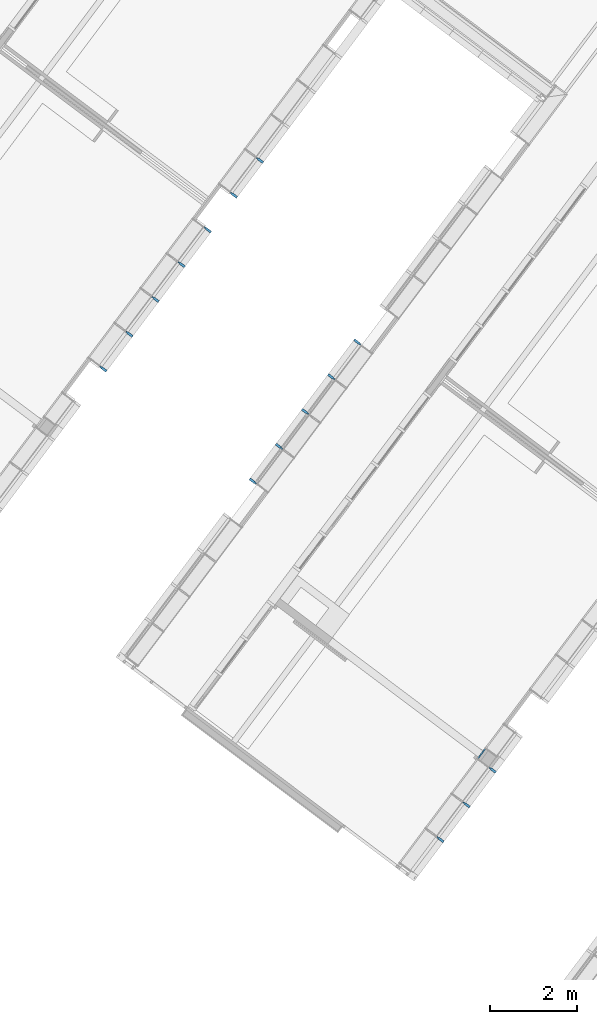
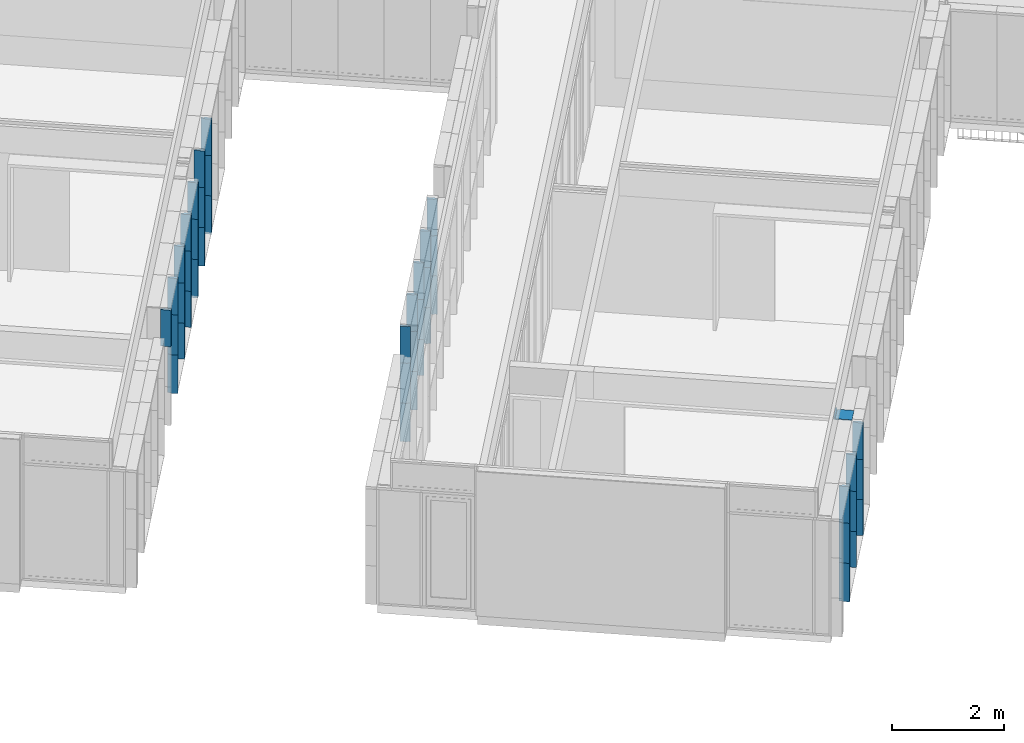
# One storey, part 94 of 243: 44 members, 4 elements without a shape of their own.
"""IFC2X3 building model written with IfcOpenShell, lengths in metres."""

from ifc_helpers import new_model, entity, si_unit, converted_unit, derived_unit, direction, frame, origin, place, context, subcontext, project, spatial, polyline, outline, extrude, source, transform, mapped, material, type_object, type_shapes, element, aggregate, save


model = new_model("IFC2X3")

# Units and contexts
model_context = context("Model", 3, precision=1e-05, world=origin(), true_north=direction((6.123031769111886e-17, 1.0)))
body_context = subcontext(model_context, "Body", "Model", "MODEL_VIEW")
ifc_project = project(units=[si_unit("LENGTHUNIT", "METRE"), si_unit("AREAUNIT", "SQUARE_METRE"), si_unit("VOLUMEUNIT", "CUBIC_METRE"), converted_unit("PLANEANGLEUNIT", "DEGREE", entity("IfcRatioMeasure", 0.017453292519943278), si_unit("PLANEANGLEUNIT", "RADIAN"), dimensions=[0, 0, 0, 0, 0, 0, 0]), si_unit("MASSUNIT", "GRAM", prefix="KILO"), derived_unit("MASSDENSITYUNIT", [(si_unit("MASSUNIT", "GRAM", prefix="KILO"), 1), (si_unit("LENGTHUNIT", "METRE"), -3)]), derived_unit("IONCONCENTRATIONUNIT", [(si_unit("MASSUNIT", "GRAM", prefix="KILO"), 1), (si_unit("LENGTHUNIT", "METRE"), -3)]), derived_unit("MOMENTOFINERTIAUNIT", [(si_unit("LENGTHUNIT", "METRE"), 4)]), si_unit("TIMEUNIT", "SECOND"), si_unit("FREQUENCYUNIT", "HERTZ"), si_unit("THERMODYNAMICTEMPERATUREUNIT", "DEGREE_CELSIUS"), derived_unit("THERMALTRANSMITTANCEUNIT", [(si_unit("MASSUNIT", "GRAM", prefix="KILO"), 1), (si_unit("THERMODYNAMICTEMPERATUREUNIT", "KELVIN"), -1), (si_unit("TIMEUNIT", "SECOND"), -3)]), derived_unit("THERMALCONDUCTANCEUNIT", [(si_unit("MASSUNIT", "GRAM", prefix="KILO"), 1), (si_unit("THERMODYNAMICTEMPERATUREUNIT", "KELVIN"), -1), (si_unit("TIMEUNIT", "SECOND"), -3), (si_unit("LENGTHUNIT", "METRE"), 1)]), derived_unit("VOLUMETRICFLOWRATEUNIT", [(si_unit("LENGTHUNIT", "METRE"), 3), (si_unit("TIMEUNIT", "SECOND"), -1)]), derived_unit("MASSFLOWRATEUNIT", [(si_unit("MASSUNIT", "GRAM", prefix="KILO"), 1), (si_unit("TIMEUNIT", "SECOND"), -1)]), derived_unit("ROTATIONALFREQUENCYUNIT", [(si_unit("TIMEUNIT", "SECOND"), -1)]), si_unit("ELECTRICCURRENTUNIT", "AMPERE"), si_unit("ELECTRICVOLTAGEUNIT", "VOLT"), si_unit("POWERUNIT", "WATT"), si_unit("FORCEUNIT", "NEWTON", prefix="KILO"), si_unit("ILLUMINANCEUNIT", "LUX"), si_unit("LUMINOUSFLUXUNIT", "LUMEN"), si_unit("LUMINOUSINTENSITYUNIT", "CANDELA"), derived_unit("USERDEFINED", [(si_unit("MASSUNIT", "GRAM", prefix="KILO"), -1), (si_unit("LENGTHUNIT", "METRE"), -2), (si_unit("TIMEUNIT", "SECOND"), 3), (si_unit("LUMINOUSFLUXUNIT", "LUMEN"), 1)]), derived_unit("USERDEFINED", [(si_unit("MASSUNIT", "GRAM", prefix="KILO"), 1), (si_unit("TIMEUNIT", "SECOND"), -3), (si_unit("LENGTHUNIT", "METRE"), 3), (si_unit("ELECTRICCURRENTUNIT", "AMPERE"), -2)]), derived_unit("SOUNDPOWERUNIT", [(si_unit("MASSUNIT", "GRAM", prefix="KILO"), 1), (si_unit("TIMEUNIT", "SECOND"), -3), (si_unit("LENGTHUNIT", "METRE"), 2)]), derived_unit("SOUNDPRESSUREUNIT", [(si_unit("MASSUNIT", "GRAM", prefix="KILO"), 1), (si_unit("LENGTHUNIT", "METRE"), -1), (si_unit("TIMEUNIT", "SECOND"), -2)]), derived_unit("LINEARVELOCITYUNIT", [(si_unit("LENGTHUNIT", "METRE"), 1), (si_unit("TIMEUNIT", "SECOND"), -1)]), si_unit("PRESSUREUNIT", "PASCAL"), derived_unit("USERDEFINED", [(si_unit("MASSUNIT", "GRAM", prefix="KILO"), 1), (si_unit("LENGTHUNIT", "METRE"), -2), (si_unit("TIMEUNIT", "SECOND"), -2)]), derived_unit("LINEARFORCEUNIT", [(si_unit("MASSUNIT", "GRAM", prefix="KILO"), 1), (si_unit("TIMEUNIT", "SECOND"), -2)]), derived_unit("PLANARFORCEUNIT", [(si_unit("MASSUNIT", "GRAM", prefix="KILO"), 1), (si_unit("LENGTHUNIT", "METRE"), -1), (si_unit("TIMEUNIT", "SECOND"), -2)]), derived_unit("SPECIFICHEATCAPACITYUNIT", [(si_unit("THERMODYNAMICTEMPERATUREUNIT", "KELVIN"), -1), (si_unit("LENGTHUNIT", "METRE"), 2), (si_unit("TIMEUNIT", "SECOND"), -2)]), derived_unit("HEATINGVALUEUNIT", [(si_unit("LENGTHUNIT", "METRE"), 2), (si_unit("TIMEUNIT", "SECOND"), -2)]), derived_unit("VAPORPERMEABILITYUNIT", [(si_unit("LENGTHUNIT", "METRE"), -1), (si_unit("TIMEUNIT", "SECOND"), 1)]), derived_unit("DYNAMICVISCOSITYUNIT", [(si_unit("MASSUNIT", "GRAM", prefix="KILO"), 1), (si_unit("TIMEUNIT", "SECOND"), -1), (si_unit("LENGTHUNIT", "METRE"), -1)]), derived_unit("THERMALEXPANSIONCOEFFICIENTUNIT", [(si_unit("THERMODYNAMICTEMPERATUREUNIT", "KELVIN"), -1)]), derived_unit("MODULUSOFELASTICITYUNIT", [(si_unit("MASSUNIT", "GRAM", prefix="KILO"), 1), (si_unit("LENGTHUNIT", "METRE"), -1), (si_unit("TIMEUNIT", "SECOND"), -2)]), derived_unit("ISOTHERMALMOISTURECAPACITYUNIT", [(si_unit("LENGTHUNIT", "METRE"), 3), (si_unit("MASSUNIT", "GRAM", prefix="KILO"), -1)]), derived_unit("MOISTUREDIFFUSIVITYUNIT", [(si_unit("TIMEUNIT", "SECOND"), -1), (si_unit("LENGTHUNIT", "METRE"), 2)])], contexts=[model_context])

# Site, building, storey
site_placement = place(None, frame((0.0, 0.0, 235.0), z_axis=(0.0, 0.0, 1.0), x_axis=(-0.7996477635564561, 0.6004693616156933, 0.0)))
site = spatial("IfcSite", under=ifc_project, at=site_placement, Name="Default", CompositionType="ELEMENT")
building_placement = place(site_placement, origin())
building = spatial("IfcBuilding", under=site, at=building_placement, CompositionType="ELEMENT")
storey_placement = place(building_placement, origin())
storey = spatial("IfcBuildingStorey", under=building, at=storey_placement, Name="P0- Escola", CompositionType="ELEMENT", Elevation=0.0)

# Curtain wall, member
curtain_wall_type_1 = type_object("IfcCurtainWallType", Name="Muro cortina:MC- EXT- MC2", PredefinedType="NOTDEFINED")
curtain_wall_1_placement = place(storey_placement, origin())
curtain_wall_1 = element("IfcCurtainWall", 1, at=curtain_wall_1_placement, inside=storey, type_object=curtain_wall_type_1, Name="Muro cortina:MC- EXT- MC2", ObjectType="Muro cortina:MC- EXT- MC2")
ifc_material_1 = material(Name="_Alumini- T1- Perfil")
member_type_1 = type_object("IfcMemberType", Name="Montante rectangular:MC- Alu- 140x52,5 cm- Fa patis- Centre", PredefinedType="MULLION", material=ifc_material_1)
shared_shape_1 = source(origin(), body_context, "Body", "SweptSolid", [
    extrude(outline(polyline([(-0.11699999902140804, -0.026250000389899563), (0.021999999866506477, -0.026250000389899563), (0.021999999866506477, -0.01500000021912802), (0.07299999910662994, -0.01500000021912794), (0.07299999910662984, 0.015000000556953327), (0.02200000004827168, 0.015000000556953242), (0.02200000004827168, 0.026250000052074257), (-0.11699999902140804, 0.026250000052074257), (-0.11699999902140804, -0.026250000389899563)])), frame((0.0, 0.022999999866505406, -0.8400000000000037), z_axis=(0.0, 0.0, 1.0), x_axis=(0.0, -1.0, 0.0)), (0.0, 0.0, 1.0), 0.8400000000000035),
])
type_shapes(member_type_1, [shared_shape_1])
member_1_placement = place(curtain_wall_1_placement, frame((53.74514768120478, -21.415191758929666, -0.02), z_axis=(0.0, 0.0, -1.0), x_axis=(0.0, -1.0, 0.0)))
member_1 = element("IfcMember", 2, at=member_1_placement, type_object=member_type_1, material=ifc_material_1, Name="Montante rectangular:MC- Alu- 140x52,5 cm- Fa patis- Centre", ObjectType="Montante rectangular:MC- Alu- 140x52,5 cm- Fa patis- Centre", context=body_context, shape_type="MappedRepresentation", body=[
    mapped(shared_shape_1, transform((0.0, 0.0, 0.0), scale=1.0)),
])

# Curtain wall, members
curtain_wall_2_placement = place(storey_placement, origin())
curtain_wall_2 = element("IfcCurtainWall", 3, at=curtain_wall_2_placement, inside=storey, type_object=curtain_wall_type_1, Name="Muro cortina:MC- EXT- MC2", ObjectType="Muro cortina:MC- EXT- MC2")
member_2_placement = place(curtain_wall_2_placement, frame((66.44514768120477, -26.415191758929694, -0.02), z_axis=(0.0, 0.0, -1.0), x_axis=(0.0, -1.0, 0.0)))
member_2 = element("IfcMember", 4, at=member_2_placement, type_object=member_type_1, material=ifc_material_1, Name="Montante rectangular:MC- Alu- 140x52,5 cm- Fa patis- Centre", ObjectType="Montante rectangular:MC- Alu- 140x52,5 cm- Fa patis- Centre", context=body_context, shape_type="MappedRepresentation", body=[
    mapped(shared_shape_1, transform((0.0, 0.0, 0.0), scale=1.0)),
])
member_3_placement = place(curtain_wall_2_placement, frame((66.44514768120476, -29.415191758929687, -0.02), z_axis=(0.0, 0.0, -1.0), x_axis=(0.0, -1.0, 0.0)))
member_3 = element("IfcMember", 5, at=member_3_placement, type_object=member_type_1, material=ifc_material_1, Name="Montante rectangular:MC- Alu- 140x52,5 cm- Fa patis- Centre", ObjectType="Montante rectangular:MC- Alu- 140x52,5 cm- Fa patis- Centre", context=body_context, shape_type="MappedRepresentation", body=[
    mapped(shared_shape_1, transform((0.0, 0.0, 0.0), scale=1.0)),
])
member_4_placement = place(curtain_wall_2_placement, frame((66.44514768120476, -31.41519175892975, -0.02), z_axis=(0.0, 0.0, -1.0), x_axis=(0.0, -1.0, 0.0)))
member_4 = element("IfcMember", 6, at=member_4_placement, type_object=member_type_1, material=ifc_material_1, Name="Montante rectangular:MC- Alu- 140x52,5 cm- Fa patis- Centre", ObjectType="Montante rectangular:MC- Alu- 140x52,5 cm- Fa patis- Centre", context=body_context, shape_type="MappedRepresentation", body=[
    mapped(shared_shape_1, transform((0.0, 0.0, 0.0), scale=1.0)),
])
member_5_placement = place(curtain_wall_2_placement, frame((66.44514768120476, -30.41519175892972, -0.02), z_axis=(0.0, 0.0, -1.0), x_axis=(0.0, -1.0, 0.0)))
member_5 = element("IfcMember", 7, at=member_5_placement, type_object=member_type_1, material=ifc_material_1, Name="Montante rectangular:MC- Alu- 140x52,5 cm- Fa patis- Centre", ObjectType="Montante rectangular:MC- Alu- 140x52,5 cm- Fa patis- Centre", context=body_context, shape_type="MappedRepresentation", body=[
    mapped(shared_shape_1, transform((0.0, 0.0, 0.0), scale=1.0)),
])

# Member
member_type_2 = type_object("IfcMemberType", Name="Montante rectangular:MC- Alu- 140x52,5 cm- Fa patis- Centre", PredefinedType="MULLION", material=ifc_material_1)
shared_shape_2 = source(origin(), body_context, "Body", "SweptSolid", [
    extrude(outline(polyline([(-0.11699999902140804, -0.026250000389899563), (0.021999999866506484, -0.026250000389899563), (0.021999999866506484, -0.01500000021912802), (0.07299999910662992, -0.01500000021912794), (0.07299999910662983, 0.015000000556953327), (0.022000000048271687, 0.015000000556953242), (0.022000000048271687, 0.026250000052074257), (-0.11699999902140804, 0.026250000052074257), (-0.11699999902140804, -0.026250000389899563)])), frame((0.0, 0.022999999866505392, -0.7850000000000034), z_axis=(0.0, 0.0, 1.0), x_axis=(0.0, -1.0, 0.0)), (0.0, 0.0, 1.0), 0.7850000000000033),
])
type_shapes(member_type_2, [shared_shape_2])
member_6_placement = place(curtain_wall_1_placement, frame((53.74514768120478, -22.415191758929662, 0.035000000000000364), z_axis=(0.0, 0.0, -1.0), x_axis=(0.0, -1.0, 0.0)))
member_6 = element("IfcMember", 8, at=member_6_placement, type_object=member_type_2, material=ifc_material_1, Name="Montante rectangular:MC- Alu- 140x52,5 cm- Fa patis- Centre", ObjectType="Montante rectangular:MC- Alu- 140x52,5 cm- Fa patis- Centre", context=body_context, shape_type="MappedRepresentation", body=[
    mapped(shared_shape_2, transform((0.0, 0.0, 0.0), scale=1.0)),
])

member_7_placement = place(curtain_wall_1_placement, frame((53.74514768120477, -23.41519175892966, 0.035000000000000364), z_axis=(0.0, 0.0, -1.0), x_axis=(0.0, -1.0, 0.0)))
member_7 = element("IfcMember", 9, at=member_7_placement, type_object=member_type_2, material=ifc_material_1, Name="Montante rectangular:MC- Alu- 140x52,5 cm- Fa patis- Centre", ObjectType="Montante rectangular:MC- Alu- 140x52,5 cm- Fa patis- Centre", context=body_context, shape_type="MappedRepresentation", body=[
    mapped(shared_shape_2, transform((0.0, 0.0, 0.0), scale=1.0)),
])

member_8_placement = place(curtain_wall_2_placement, frame((66.44514768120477, -27.41519175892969, 0.035000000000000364), z_axis=(0.0, 0.0, -1.0), x_axis=(0.0, -1.0, 0.0)))
member_8 = element("IfcMember", 10, at=member_8_placement, type_object=member_type_2, material=ifc_material_1, Name="Montante rectangular:MC- Alu- 140x52,5 cm- Fa patis- Centre", ObjectType="Montante rectangular:MC- Alu- 140x52,5 cm- Fa patis- Centre", context=body_context, shape_type="MappedRepresentation", body=[
    mapped(shared_shape_2, transform((0.0, 0.0, 0.0), scale=1.0)),
])

member_9_placement = place(curtain_wall_2_placement, frame((66.44514768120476, -28.415191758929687, 0.035000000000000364), z_axis=(0.0, 0.0, -1.0), x_axis=(0.0, -1.0, 0.0)))
member_9 = element("IfcMember", 11, at=member_9_placement, type_object=member_type_2, material=ifc_material_1, Name="Montante rectangular:MC- Alu- 140x52,5 cm- Fa patis- Centre", ObjectType="Montante rectangular:MC- Alu- 140x52,5 cm- Fa patis- Centre", context=body_context, shape_type="MappedRepresentation", body=[
    mapped(shared_shape_2, transform((0.0, 0.0, 0.0), scale=1.0)),
])

member_type_3 = type_object("IfcMemberType", Name="Montante rectangular:MC- Alu- 140x52,5 cm- Fa patis- Centre", PredefinedType="MULLION", material=ifc_material_1)
shared_shape_3 = source(origin(), body_context, "Body", "SweptSolid", [
    extrude(outline(polyline([(-0.11699999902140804, -0.026250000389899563), (0.021999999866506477, -0.026250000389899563), (0.021999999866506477, -0.01500000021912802), (0.07299999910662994, -0.01500000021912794), (0.07299999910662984, 0.015000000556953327), (0.02200000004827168, 0.015000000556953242), (0.02200000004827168, 0.026250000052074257), (-0.11699999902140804, 0.026250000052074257), (-0.11699999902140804, -0.026250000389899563)])), frame((0.0, 0.022999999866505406, -0.8750000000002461), z_axis=(0.0, 0.0, 1.0), x_axis=(0.0, -1.0, 0.0)), (0.0, 0.0, 1.0), 0.8750000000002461),
])
type_shapes(member_type_3, [shared_shape_3])
member_10_placement = place(curtain_wall_1_placement, frame((53.74514768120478, -21.415191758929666, 0.8200000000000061), z_axis=(0.0, 0.0, -1.0), x_axis=(0.0, -1.0, 0.0)))
member_10 = element("IfcMember", 12, at=member_10_placement, type_object=member_type_3, material=ifc_material_1, Name="Montante rectangular:MC- Alu- 140x52,5 cm- Fa patis- Centre", ObjectType="Montante rectangular:MC- Alu- 140x52,5 cm- Fa patis- Centre", context=body_context, shape_type="MappedRepresentation", body=[
    mapped(shared_shape_3, transform((0.0, 0.0, 0.0), scale=1.0)),
])

member_11_placement = place(curtain_wall_1_placement, frame((53.74514768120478, -22.415191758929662, 0.8200000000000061), z_axis=(0.0, 0.0, -1.0), x_axis=(0.0, -1.0, 0.0)))
member_11 = element("IfcMember", 13, at=member_11_placement, type_object=member_type_3, material=ifc_material_1, Name="Montante rectangular:MC- Alu- 140x52,5 cm- Fa patis- Centre", ObjectType="Montante rectangular:MC- Alu- 140x52,5 cm- Fa patis- Centre", context=body_context, shape_type="MappedRepresentation", body=[
    mapped(shared_shape_3, transform((0.0, 0.0, 0.0), scale=1.0)),
])

member_12_placement = place(curtain_wall_1_placement, frame((53.74514768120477, -23.41519175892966, 0.8200000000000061), z_axis=(0.0, 0.0, -1.0), x_axis=(0.0, -1.0, 0.0)))
member_12 = element("IfcMember", 14, at=member_12_placement, type_object=member_type_3, material=ifc_material_1, Name="Montante rectangular:MC- Alu- 140x52,5 cm- Fa patis- Centre", ObjectType="Montante rectangular:MC- Alu- 140x52,5 cm- Fa patis- Centre", context=body_context, shape_type="MappedRepresentation", body=[
    mapped(shared_shape_3, transform((0.0, 0.0, 0.0), scale=1.0)),
])

member_13_placement = place(curtain_wall_2_placement, frame((66.44514768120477, -26.415191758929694, 0.8200000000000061), z_axis=(0.0, 0.0, -1.0), x_axis=(0.0, -1.0, 0.0)))
member_13 = element("IfcMember", 15, at=member_13_placement, type_object=member_type_3, material=ifc_material_1, Name="Montante rectangular:MC- Alu- 140x52,5 cm- Fa patis- Centre", ObjectType="Montante rectangular:MC- Alu- 140x52,5 cm- Fa patis- Centre", context=body_context, shape_type="MappedRepresentation", body=[
    mapped(shared_shape_3, transform((0.0, 0.0, 0.0), scale=1.0)),
])

member_14_placement = place(curtain_wall_2_placement, frame((66.44514768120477, -27.41519175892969, 0.8200000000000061), z_axis=(0.0, 0.0, -1.0), x_axis=(0.0, -1.0, 0.0)))
member_14 = element("IfcMember", 16, at=member_14_placement, type_object=member_type_3, material=ifc_material_1, Name="Montante rectangular:MC- Alu- 140x52,5 cm- Fa patis- Centre", ObjectType="Montante rectangular:MC- Alu- 140x52,5 cm- Fa patis- Centre", context=body_context, shape_type="MappedRepresentation", body=[
    mapped(shared_shape_3, transform((0.0, 0.0, 0.0), scale=1.0)),
])

member_15_placement = place(curtain_wall_2_placement, frame((66.44514768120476, -28.415191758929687, 0.8200000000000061), z_axis=(0.0, 0.0, -1.0), x_axis=(0.0, -1.0, 0.0)))
member_15 = element("IfcMember", 17, at=member_15_placement, type_object=member_type_3, material=ifc_material_1, Name="Montante rectangular:MC- Alu- 140x52,5 cm- Fa patis- Centre", ObjectType="Montante rectangular:MC- Alu- 140x52,5 cm- Fa patis- Centre", context=body_context, shape_type="MappedRepresentation", body=[
    mapped(shared_shape_3, transform((0.0, 0.0, 0.0), scale=1.0)),
])

member_16_placement = place(curtain_wall_2_placement, frame((66.44514768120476, -29.415191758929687, 0.8200000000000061), z_axis=(0.0, 0.0, -1.0), x_axis=(0.0, -1.0, 0.0)))
member_16 = element("IfcMember", 18, at=member_16_placement, type_object=member_type_3, material=ifc_material_1, Name="Montante rectangular:MC- Alu- 140x52,5 cm- Fa patis- Centre", ObjectType="Montante rectangular:MC- Alu- 140x52,5 cm- Fa patis- Centre", context=body_context, shape_type="MappedRepresentation", body=[
    mapped(shared_shape_3, transform((0.0, 0.0, 0.0), scale=1.0)),
])

member_17_placement = place(curtain_wall_2_placement, frame((66.44514768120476, -30.41519175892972, 0.8200000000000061), z_axis=(0.0, 0.0, -1.0), x_axis=(0.0, -1.0, 0.0)))
member_17 = element("IfcMember", 19, at=member_17_placement, type_object=member_type_3, material=ifc_material_1, Name="Montante rectangular:MC- Alu- 140x52,5 cm- Fa patis- Centre", ObjectType="Montante rectangular:MC- Alu- 140x52,5 cm- Fa patis- Centre", context=body_context, shape_type="MappedRepresentation", body=[
    mapped(shared_shape_3, transform((0.0, 0.0, 0.0), scale=1.0)),
])

member_18_placement = place(curtain_wall_2_placement, frame((66.44514768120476, -31.41519175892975, 0.8200000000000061), z_axis=(0.0, 0.0, -1.0), x_axis=(0.0, -1.0, 0.0)))
member_18 = element("IfcMember", 20, at=member_18_placement, type_object=member_type_3, material=ifc_material_1, Name="Montante rectangular:MC- Alu- 140x52,5 cm- Fa patis- Centre", ObjectType="Montante rectangular:MC- Alu- 140x52,5 cm- Fa patis- Centre", context=body_context, shape_type="MappedRepresentation", body=[
    mapped(shared_shape_3, transform((0.0, 0.0, 0.0), scale=1.0)),
])

# Curtain wall, member
curtain_wall_type_2 = type_object("IfcCurtainWallType", Name="Muro cortina:MC- INT- k7- Aules infantil", PredefinedType="NOTDEFINED")
curtain_wall_3_placement = place(storey_placement, origin())
curtain_wall_3 = element("IfcCurtainWall", 21, at=curtain_wall_3_placement, inside=storey, type_object=curtain_wall_type_2, Name="Muro cortina:MC- INT- k7- Aules infantil", ObjectType="Muro cortina:MC- INT- k7- Aules infantil")
ifc_material_2 = material(Name="_Fusta massisa- T1")
member_type_4 = type_object("IfcMemberType", Name="Montante rectangular:MC- Fusta- 35x3 cm- Pati aules- Remat superior", PredefinedType="MULLION", material=ifc_material_2)
shared_shape_4 = source(origin(), body_context, "Body", "SweptSolid", [
    extrude(outline(polyline([(-0.21333333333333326, -0.02666666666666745), (0.1216666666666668, -0.02666666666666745), (0.12166666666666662, 0.03333333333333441), (0.09166666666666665, 0.03333333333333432), (0.09166666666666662, -0.006666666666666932), (-0.2133333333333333, -0.006666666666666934), (-0.21333333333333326, -0.02666666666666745)])), frame((-0.033333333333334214, 0.026666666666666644, -0.3000000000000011), z_axis=(0.0, 0.0, 1.0), x_axis=(0.0, -1.0, 0.0)), (0.0, 0.0, 1.0), 0.3000000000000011),
])
type_shapes(member_type_4, [shared_shape_4])
member_19_placement = place(curtain_wall_3_placement, frame((54.04514768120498, -23.715191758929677, 2.565), z_axis=(0.0, -1.0, 0.0), x_axis=(0.0, 0.0, 1.0)))
member_19 = element("IfcMember", 22, at=member_19_placement, type_object=member_type_4, material=ifc_material_2, Name="Montante rectangular:MC- Fusta- 35x3 cm- Pati aules- Remat superior", ObjectType="Montante rectangular:MC- Fusta- 35x3 cm- Pati aules- Remat superior", context=body_context, shape_type="MappedRepresentation", body=[
    mapped(shared_shape_4, transform((0.0, 0.0, 0.0), scale=1.0)),
])
aggregate(curtain_wall_3, [member_19])

# Member
member_type_5 = type_object("IfcMemberType", Name="Montante rectangular:MC- Alu- 140x52,5 cm- Fa patis- Centre", PredefinedType="MULLION", material=ifc_material_1)
shared_shape_5 = source(origin(), body_context, "Body", "SweptSolid", [
    extrude(outline(polyline([(-0.11699999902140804, -0.026250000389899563), (0.021999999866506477, -0.026250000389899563), (0.021999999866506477, -0.01500000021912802), (0.07299999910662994, -0.01500000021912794), (0.07299999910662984, 0.015000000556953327), (0.02200000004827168, 0.015000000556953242), (0.02200000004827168, 0.026250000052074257), (-0.11699999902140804, 0.026250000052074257), (-0.11699999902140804, -0.026250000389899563)])), frame((0.0, 0.022999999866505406, -0.79749999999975), z_axis=(0.0, 0.0, 1.0), x_axis=(0.0, -1.0, 0.0)), (0.0, 0.0, 1.0), 0.79749999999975),
])
type_shapes(member_type_5, [shared_shape_5])
member_20_placement = place(curtain_wall_1_placement, frame((53.74514768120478, -21.415191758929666, 1.6950000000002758), z_axis=(0.0, 0.0, -1.0), x_axis=(0.0, -1.0, 0.0)))
member_20 = element("IfcMember", 23, at=member_20_placement, type_object=member_type_5, material=ifc_material_1, Name="Montante rectangular:MC- Alu- 140x52,5 cm- Fa patis- Centre", ObjectType="Montante rectangular:MC- Alu- 140x52,5 cm- Fa patis- Centre", context=body_context, shape_type="MappedRepresentation", body=[
    mapped(shared_shape_5, transform((0.0, 0.0, 0.0), scale=1.0)),
])

member_21_placement = place(curtain_wall_1_placement, frame((53.74514768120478, -22.415191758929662, 1.6950000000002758), z_axis=(0.0, 0.0, -1.0), x_axis=(0.0, -1.0, 0.0)))
member_21 = element("IfcMember", 24, at=member_21_placement, type_object=member_type_5, material=ifc_material_1, Name="Montante rectangular:MC- Alu- 140x52,5 cm- Fa patis- Centre", ObjectType="Montante rectangular:MC- Alu- 140x52,5 cm- Fa patis- Centre", context=body_context, shape_type="MappedRepresentation", body=[
    mapped(shared_shape_5, transform((0.0, 0.0, 0.0), scale=1.0)),
])

member_22_placement = place(curtain_wall_1_placement, frame((53.74514768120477, -23.41519175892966, 1.6950000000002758), z_axis=(0.0, 0.0, -1.0), x_axis=(0.0, -1.0, 0.0)))
member_22 = element("IfcMember", 25, at=member_22_placement, type_object=member_type_5, material=ifc_material_1, Name="Montante rectangular:MC- Alu- 140x52,5 cm- Fa patis- Centre", ObjectType="Montante rectangular:MC- Alu- 140x52,5 cm- Fa patis- Centre", context=body_context, shape_type="MappedRepresentation", body=[
    mapped(shared_shape_5, transform((0.0, 0.0, 0.0), scale=1.0)),
])

aggregate(curtain_wall_1, [member_1, member_6, member_7, member_10, member_11, member_12, member_20, member_21, member_22])

member_23_placement = place(curtain_wall_2_placement, frame((66.44514768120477, -25.41519175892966, 1.6950000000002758), z_axis=(0.0, 0.0, -1.0), x_axis=(0.0, -1.0, 0.0)))
member_23 = element("IfcMember", 26, at=member_23_placement, type_object=member_type_5, material=ifc_material_1, Name="Montante rectangular:MC- Alu- 140x52,5 cm- Fa patis- Centre", ObjectType="Montante rectangular:MC- Alu- 140x52,5 cm- Fa patis- Centre", context=body_context, shape_type="MappedRepresentation", body=[
    mapped(shared_shape_5, transform((0.0, 0.0, 0.0), scale=1.0)),
])

member_24_placement = place(curtain_wall_2_placement, frame((66.44514768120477, -26.415191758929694, 1.6950000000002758), z_axis=(0.0, 0.0, -1.0), x_axis=(0.0, -1.0, 0.0)))
member_24 = element("IfcMember", 27, at=member_24_placement, type_object=member_type_5, material=ifc_material_1, Name="Montante rectangular:MC- Alu- 140x52,5 cm- Fa patis- Centre", ObjectType="Montante rectangular:MC- Alu- 140x52,5 cm- Fa patis- Centre", context=body_context, shape_type="MappedRepresentation", body=[
    mapped(shared_shape_5, transform((0.0, 0.0, 0.0), scale=1.0)),
])

member_25_placement = place(curtain_wall_2_placement, frame((66.44514768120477, -27.41519175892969, 1.6950000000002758), z_axis=(0.0, 0.0, -1.0), x_axis=(0.0, -1.0, 0.0)))
member_25 = element("IfcMember", 28, at=member_25_placement, type_object=member_type_5, material=ifc_material_1, Name="Montante rectangular:MC- Alu- 140x52,5 cm- Fa patis- Centre", ObjectType="Montante rectangular:MC- Alu- 140x52,5 cm- Fa patis- Centre", context=body_context, shape_type="MappedRepresentation", body=[
    mapped(shared_shape_5, transform((0.0, 0.0, 0.0), scale=1.0)),
])

member_26_placement = place(curtain_wall_2_placement, frame((66.44514768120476, -28.415191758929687, 1.6950000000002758), z_axis=(0.0, 0.0, -1.0), x_axis=(0.0, -1.0, 0.0)))
member_26 = element("IfcMember", 29, at=member_26_placement, type_object=member_type_5, material=ifc_material_1, Name="Montante rectangular:MC- Alu- 140x52,5 cm- Fa patis- Centre", ObjectType="Montante rectangular:MC- Alu- 140x52,5 cm- Fa patis- Centre", context=body_context, shape_type="MappedRepresentation", body=[
    mapped(shared_shape_5, transform((0.0, 0.0, 0.0), scale=1.0)),
])

member_27_placement = place(curtain_wall_2_placement, frame((66.44514768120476, -29.415191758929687, 1.6950000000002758), z_axis=(0.0, 0.0, -1.0), x_axis=(0.0, -1.0, 0.0)))
member_27 = element("IfcMember", 30, at=member_27_placement, type_object=member_type_5, material=ifc_material_1, Name="Montante rectangular:MC- Alu- 140x52,5 cm- Fa patis- Centre", ObjectType="Montante rectangular:MC- Alu- 140x52,5 cm- Fa patis- Centre", context=body_context, shape_type="MappedRepresentation", body=[
    mapped(shared_shape_5, transform((0.0, 0.0, 0.0), scale=1.0)),
])

member_28_placement = place(curtain_wall_2_placement, frame((66.44514768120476, -30.41519175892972, 1.6950000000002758), z_axis=(0.0, 0.0, -1.0), x_axis=(0.0, -1.0, 0.0)))
member_28 = element("IfcMember", 31, at=member_28_placement, type_object=member_type_5, material=ifc_material_1, Name="Montante rectangular:MC- Alu- 140x52,5 cm- Fa patis- Centre", ObjectType="Montante rectangular:MC- Alu- 140x52,5 cm- Fa patis- Centre", context=body_context, shape_type="MappedRepresentation", body=[
    mapped(shared_shape_5, transform((0.0, 0.0, 0.0), scale=1.0)),
])

member_29_placement = place(curtain_wall_2_placement, frame((66.44514768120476, -31.41519175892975, 1.6950000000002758), z_axis=(0.0, 0.0, -1.0), x_axis=(0.0, -1.0, 0.0)))
member_29 = element("IfcMember", 32, at=member_29_placement, type_object=member_type_5, material=ifc_material_1, Name="Montante rectangular:MC- Alu- 140x52,5 cm- Fa patis- Centre", ObjectType="Montante rectangular:MC- Alu- 140x52,5 cm- Fa patis- Centre", context=body_context, shape_type="MappedRepresentation", body=[
    mapped(shared_shape_5, transform((0.0, 0.0, 0.0), scale=1.0)),
])

aggregate(curtain_wall_2, [member_2, member_8, member_9, member_3, member_4, member_5, member_13, member_14, member_15, member_16, member_17, member_18, member_23, member_24, member_25, member_26, member_27, member_28, member_29])

# Curtain wall, members
curtain_wall_type_3 = type_object("IfcCurtainWallType", Name="Muro cortina:MC- EXT- MC5", PredefinedType="NOTDEFINED")
curtain_wall_4_placement = place(storey_placement, origin())
curtain_wall_4 = element("IfcCurtainWall", 33, at=curtain_wall_4_placement, inside=storey, type_object=curtain_wall_type_3, Name="Muro cortina:MC- EXT- MC5", ObjectType="Muro cortina:MC- EXT- MC5")
member_type_6 = type_object("IfcMemberType", Name="Montante rectangular:MC- Alu- 140x52,5 cm- Fa patis- Centre", PredefinedType="MULLION", material=ifc_material_1)
shared_shape_6 = source(origin(), body_context, "Body", "SweptSolid", [
    extrude(outline(polyline([(-0.021999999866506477, -0.026250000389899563), (0.11699999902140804, -0.026250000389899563), (0.11699999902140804, 0.026250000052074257), (-0.02200000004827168, 0.026250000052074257), (-0.02200000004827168, 0.015000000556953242), (-0.07299999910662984, 0.015000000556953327), (-0.07299999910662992, -0.01500000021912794), (-0.021999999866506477, -0.01500000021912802), (-0.021999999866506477, -0.026250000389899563)])), frame((0.0, -0.022999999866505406, -0.8400000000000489), z_axis=(0.0, 0.0, 1.0), x_axis=(0.0, -1.0, 0.0)), (0.0, 0.0, 1.0), 0.8400000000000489),
])
type_shapes(member_type_6, [shared_shape_6])
member_30_placement = place(curtain_wall_4_placement, frame((62.04514768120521, -26.415191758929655, -0.02), z_axis=(0.0, 0.0, -1.0), x_axis=(0.0, -1.0, 0.0)))
member_30 = element("IfcMember", 34, at=member_30_placement, type_object=member_type_6, material=ifc_material_1, Name="Montante rectangular:MC- Alu- 140x52,5 cm- Fa patis- Centre", ObjectType="Montante rectangular:MC- Alu- 140x52,5 cm- Fa patis- Centre", context=body_context, shape_type="MappedRepresentation", body=[
    mapped(shared_shape_6, transform((0.0, 0.0, 0.0), scale=1.0)),
])
member_31_placement = place(curtain_wall_4_placement, frame((62.045147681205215, -29.415191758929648, -0.02), z_axis=(0.0, 0.0, -1.0), x_axis=(0.0, -1.0, 0.0)))
member_31 = element("IfcMember", 35, at=member_31_placement, type_object=member_type_6, material=ifc_material_1, Name="Montante rectangular:MC- Alu- 140x52,5 cm- Fa patis- Centre", ObjectType="Montante rectangular:MC- Alu- 140x52,5 cm- Fa patis- Centre", context=body_context, shape_type="MappedRepresentation", body=[
    mapped(shared_shape_6, transform((0.0, 0.0, 0.0), scale=1.0)),
])
member_32_placement = place(curtain_wall_4_placement, frame((62.04514768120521, -25.415191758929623, -0.02), z_axis=(0.0, 0.0, -1.0), x_axis=(0.0, -1.0, 0.0)))
member_32 = element("IfcMember", 36, at=member_32_placement, type_object=member_type_6, material=ifc_material_1, Name="Montante rectangular:MC- Alu- 140x52,5 cm- Fa patis- Centre", ObjectType="Montante rectangular:MC- Alu- 140x52,5 cm- Fa patis- Centre", context=body_context, shape_type="MappedRepresentation", body=[
    mapped(shared_shape_6, transform((0.0, 0.0, 0.0), scale=1.0)),
])
member_type_7 = type_object("IfcMemberType", Name="Montante rectangular:MC- Alu- 140x52,5 cm- Fa patis- Centre", PredefinedType="MULLION", material=ifc_material_1)
shared_shape_7 = source(origin(), body_context, "Body", "SweptSolid", [
    extrude(outline(polyline([(-0.021999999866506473, -0.026250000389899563), (0.11699999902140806, -0.026250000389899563), (0.11699999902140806, 0.026250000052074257), (-0.022000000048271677, 0.026250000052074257), (-0.022000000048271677, 0.015000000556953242), (-0.07299999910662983, 0.015000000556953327), (-0.07299999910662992, -0.01500000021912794), (-0.021999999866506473, -0.01500000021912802), (-0.021999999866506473, -0.026250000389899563)])), frame((0.0, -0.022999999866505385, -0.7850000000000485), z_axis=(0.0, 0.0, 1.0), x_axis=(0.0, -1.0, 0.0)), (0.0, 0.0, 1.0), 0.7850000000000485),
])
type_shapes(member_type_7, [shared_shape_7])
member_33_placement = place(curtain_wall_4_placement, frame((62.04514768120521, -27.41519175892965, 0.035000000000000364), z_axis=(0.0, 0.0, -1.0), x_axis=(0.0, -1.0, 0.0)))
member_33 = element("IfcMember", 37, at=member_33_placement, type_object=member_type_7, material=ifc_material_1, Name="Montante rectangular:MC- Alu- 140x52,5 cm- Fa patis- Centre", ObjectType="Montante rectangular:MC- Alu- 140x52,5 cm- Fa patis- Centre", context=body_context, shape_type="MappedRepresentation", body=[
    mapped(shared_shape_7, transform((0.0, 0.0, 0.0), scale=1.0)),
])
member_34_placement = place(curtain_wall_4_placement, frame((62.045147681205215, -28.415191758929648, 0.035000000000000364), z_axis=(0.0, 0.0, -1.0), x_axis=(0.0, -1.0, 0.0)))
member_34 = element("IfcMember", 38, at=member_34_placement, type_object=member_type_7, material=ifc_material_1, Name="Montante rectangular:MC- Alu- 140x52,5 cm- Fa patis- Centre", ObjectType="Montante rectangular:MC- Alu- 140x52,5 cm- Fa patis- Centre", context=body_context, shape_type="MappedRepresentation", body=[
    mapped(shared_shape_7, transform((0.0, 0.0, 0.0), scale=1.0)),
])
member_type_8 = type_object("IfcMemberType", Name="Montante rectangular:MC- Alu- 140x52,5 cm- Fa patis- Centre", PredefinedType="MULLION", material=ifc_material_1)
shared_shape_8 = source(origin(), body_context, "Body", "SweptSolid", [
    extrude(outline(polyline([(-0.021999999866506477, -0.026250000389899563), (0.11699999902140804, -0.026250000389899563), (0.11699999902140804, 0.026250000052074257), (-0.02200000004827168, 0.026250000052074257), (-0.02200000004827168, 0.015000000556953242), (-0.07299999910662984, 0.015000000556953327), (-0.07299999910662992, -0.01500000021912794), (-0.021999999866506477, -0.01500000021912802), (-0.021999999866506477, -0.026250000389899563)])), frame((0.0, -0.022999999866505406, -0.8750000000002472), z_axis=(0.0, 0.0, 1.0), x_axis=(0.0, -1.0, 0.0)), (0.0, 0.0, 1.0), 0.8750000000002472),
])
type_shapes(member_type_8, [shared_shape_8])
member_35_placement = place(curtain_wall_4_placement, frame((62.04514768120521, -25.415191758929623, 0.8200000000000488), z_axis=(0.0, 0.0, -1.0), x_axis=(0.0, -1.0, 0.0)))
member_35 = element("IfcMember", 39, at=member_35_placement, type_object=member_type_8, material=ifc_material_1, Name="Montante rectangular:MC- Alu- 140x52,5 cm- Fa patis- Centre", ObjectType="Montante rectangular:MC- Alu- 140x52,5 cm- Fa patis- Centre", context=body_context, shape_type="MappedRepresentation", body=[
    mapped(shared_shape_8, transform((0.0, 0.0, 0.0), scale=1.0)),
])
member_36_placement = place(curtain_wall_4_placement, frame((62.04514768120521, -26.415191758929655, 0.8200000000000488), z_axis=(0.0, 0.0, -1.0), x_axis=(0.0, -1.0, 0.0)))
member_36 = element("IfcMember", 40, at=member_36_placement, type_object=member_type_8, material=ifc_material_1, Name="Montante rectangular:MC- Alu- 140x52,5 cm- Fa patis- Centre", ObjectType="Montante rectangular:MC- Alu- 140x52,5 cm- Fa patis- Centre", context=body_context, shape_type="MappedRepresentation", body=[
    mapped(shared_shape_8, transform((0.0, 0.0, 0.0), scale=1.0)),
])
member_37_placement = place(curtain_wall_4_placement, frame((62.04514768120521, -27.41519175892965, 0.8200000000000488), z_axis=(0.0, 0.0, -1.0), x_axis=(0.0, -1.0, 0.0)))
member_37 = element("IfcMember", 41, at=member_37_placement, type_object=member_type_8, material=ifc_material_1, Name="Montante rectangular:MC- Alu- 140x52,5 cm- Fa patis- Centre", ObjectType="Montante rectangular:MC- Alu- 140x52,5 cm- Fa patis- Centre", context=body_context, shape_type="MappedRepresentation", body=[
    mapped(shared_shape_8, transform((0.0, 0.0, 0.0), scale=1.0)),
])
member_38_placement = place(curtain_wall_4_placement, frame((62.045147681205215, -28.415191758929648, 0.8200000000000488), z_axis=(0.0, 0.0, -1.0), x_axis=(0.0, -1.0, 0.0)))
member_38 = element("IfcMember", 42, at=member_38_placement, type_object=member_type_8, material=ifc_material_1, Name="Montante rectangular:MC- Alu- 140x52,5 cm- Fa patis- Centre", ObjectType="Montante rectangular:MC- Alu- 140x52,5 cm- Fa patis- Centre", context=body_context, shape_type="MappedRepresentation", body=[
    mapped(shared_shape_8, transform((0.0, 0.0, 0.0), scale=1.0)),
])
member_39_placement = place(curtain_wall_4_placement, frame((62.045147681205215, -29.415191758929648, 0.8200000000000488), z_axis=(0.0, 0.0, -1.0), x_axis=(0.0, -1.0, 0.0)))
member_39 = element("IfcMember", 43, at=member_39_placement, type_object=member_type_8, material=ifc_material_1, Name="Montante rectangular:MC- Alu- 140x52,5 cm- Fa patis- Centre", ObjectType="Montante rectangular:MC- Alu- 140x52,5 cm- Fa patis- Centre", context=body_context, shape_type="MappedRepresentation", body=[
    mapped(shared_shape_8, transform((0.0, 0.0, 0.0), scale=1.0)),
])
member_type_9 = type_object("IfcMemberType", Name="Montante rectangular:MC- Alu- 140x52,5 cm- Fa patis- Centre", PredefinedType="MULLION", material=ifc_material_1)
shared_shape_9 = source(origin(), body_context, "Body", "SweptSolid", [
    extrude(outline(polyline([(-0.021999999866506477, -0.026250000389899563), (0.11699999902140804, -0.026250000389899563), (0.11699999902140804, 0.026250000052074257), (-0.02200000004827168, 0.026250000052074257), (-0.02200000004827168, 0.015000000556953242), (-0.07299999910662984, 0.015000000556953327), (-0.07299999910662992, -0.01500000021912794), (-0.021999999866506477, -0.01500000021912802), (-0.021999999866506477, -0.026250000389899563)])), frame((0.0, -0.022999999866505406, -0.7974999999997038), z_axis=(0.0, 0.0, 1.0), x_axis=(0.0, -1.0, 0.0)), (0.0, 0.0, 1.0), 0.7974999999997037),
])
type_shapes(member_type_9, [shared_shape_9])
member_40_placement = place(curtain_wall_4_placement, frame((62.04514768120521, -25.415191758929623, 1.695000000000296), z_axis=(0.0, 0.0, -1.0), x_axis=(0.0, -1.0, 0.0)))
member_40 = element("IfcMember", 44, at=member_40_placement, type_object=member_type_9, material=ifc_material_1, Name="Montante rectangular:MC- Alu- 140x52,5 cm- Fa patis- Centre", ObjectType="Montante rectangular:MC- Alu- 140x52,5 cm- Fa patis- Centre", context=body_context, shape_type="MappedRepresentation", body=[
    mapped(shared_shape_9, transform((0.0, 0.0, 0.0), scale=1.0)),
])
member_41_placement = place(curtain_wall_4_placement, frame((62.04514768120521, -26.415191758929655, 1.695000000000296), z_axis=(0.0, 0.0, -1.0), x_axis=(0.0, -1.0, 0.0)))
member_41 = element("IfcMember", 45, at=member_41_placement, type_object=member_type_9, material=ifc_material_1, Name="Montante rectangular:MC- Alu- 140x52,5 cm- Fa patis- Centre", ObjectType="Montante rectangular:MC- Alu- 140x52,5 cm- Fa patis- Centre", context=body_context, shape_type="MappedRepresentation", body=[
    mapped(shared_shape_9, transform((0.0, 0.0, 0.0), scale=1.0)),
])
member_42_placement = place(curtain_wall_4_placement, frame((62.04514768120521, -27.41519175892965, 1.695000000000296), z_axis=(0.0, 0.0, -1.0), x_axis=(0.0, -1.0, 0.0)))
member_42 = element("IfcMember", 46, at=member_42_placement, type_object=member_type_9, material=ifc_material_1, Name="Montante rectangular:MC- Alu- 140x52,5 cm- Fa patis- Centre", ObjectType="Montante rectangular:MC- Alu- 140x52,5 cm- Fa patis- Centre", context=body_context, shape_type="MappedRepresentation", body=[
    mapped(shared_shape_9, transform((0.0, 0.0, 0.0), scale=1.0)),
])
member_43_placement = place(curtain_wall_4_placement, frame((62.045147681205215, -28.415191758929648, 1.695000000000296), z_axis=(0.0, 0.0, -1.0), x_axis=(0.0, -1.0, 0.0)))
member_43 = element("IfcMember", 47, at=member_43_placement, type_object=member_type_9, material=ifc_material_1, Name="Montante rectangular:MC- Alu- 140x52,5 cm- Fa patis- Centre", ObjectType="Montante rectangular:MC- Alu- 140x52,5 cm- Fa patis- Centre", context=body_context, shape_type="MappedRepresentation", body=[
    mapped(shared_shape_9, transform((0.0, 0.0, 0.0), scale=1.0)),
])
member_44_placement = place(curtain_wall_4_placement, frame((62.045147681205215, -29.415191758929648, 1.695000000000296), z_axis=(0.0, 0.0, -1.0), x_axis=(0.0, -1.0, 0.0)))
member_44 = element("IfcMember", 48, at=member_44_placement, type_object=member_type_9, material=ifc_material_1, Name="Montante rectangular:MC- Alu- 140x52,5 cm- Fa patis- Centre", ObjectType="Montante rectangular:MC- Alu- 140x52,5 cm- Fa patis- Centre", context=body_context, shape_type="MappedRepresentation", body=[
    mapped(shared_shape_9, transform((0.0, 0.0, 0.0), scale=1.0)),
])
aggregate(curtain_wall_4, [member_30, member_33, member_34, member_31, member_32, member_35, member_36, member_37, member_38, member_39, member_40, member_41, member_42, member_43, member_44])

save(model, "model.ifc")
